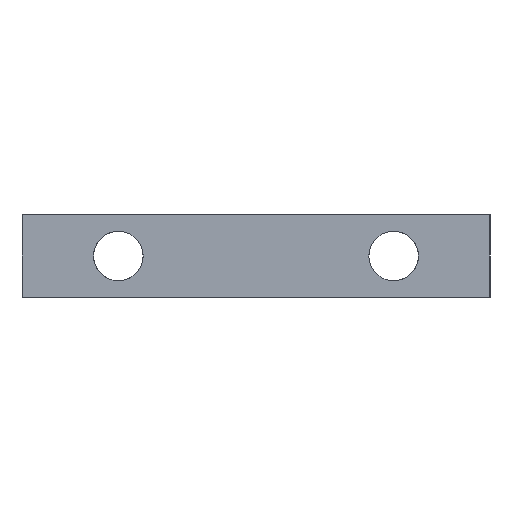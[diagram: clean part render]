
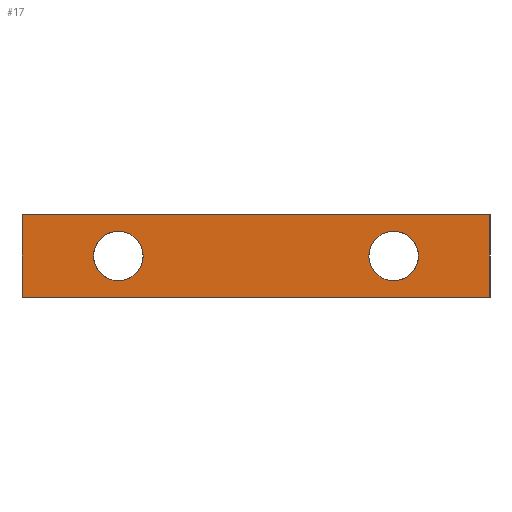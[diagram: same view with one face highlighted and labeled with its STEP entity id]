
A CAD part, left-side view. The second image highlights one B-rep face of the part: STEP entity #17.
In plain terms, the highlighted planar face has unit normal (-1, 0, 0).
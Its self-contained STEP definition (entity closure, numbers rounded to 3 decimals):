
#17 = ADVANCED_FACE('',(#18,#137,#168),#32,.F.);
#18 = FACE_BOUND('',#19,.F.);
#19 = EDGE_LOOP('',(#20,#55,#83,#111));
#20 = ORIENTED_EDGE('',*,*,#21,.F.);
#21 = EDGE_CURVE('',#22,#24,#26,.T.);
#22 = VERTEX_POINT('',#23);
#23 = CARTESIAN_POINT('',(-29.,38.,86.));
#24 = VERTEX_POINT('',#25);
#25 = CARTESIAN_POINT('',(-29.,38.,92.));
#26 = SURFACE_CURVE('',#27,(#31,#43),.PCURVE_S1.);
#27 = LINE('',#28,#29);
#28 = CARTESIAN_POINT('',(-29.,38.,86.));
#29 = VECTOR('',#30,1.);
#30 = DIRECTION('',(0.,0.,1.));
#31 = PCURVE('',#32,#37);
#32 = PLANE('',#33);
#33 = AXIS2_PLACEMENT_3D('',#34,#35,#36);
#34 = CARTESIAN_POINT('',(-29.,38.,86.));
#35 = DIRECTION('',(1.,0.,0.));
#36 = DIRECTION('',(0.,0.,1.));
#37 = DEFINITIONAL_REPRESENTATION('',(#38),#42);
#38 = LINE('',#39,#40);
#39 = CARTESIAN_POINT('',(0.,0.));
#40 = VECTOR('',#41,1.);
#41 = DIRECTION('',(1.,0.));
#42 = ( GEOMETRIC_REPRESENTATION_CONTEXT(2) 
PARAMETRIC_REPRESENTATION_CONTEXT() REPRESENTATION_CONTEXT('2D SPACE',''
  ) );
#43 = PCURVE('',#44,#49);
#44 = PLANE('',#45);
#45 = AXIS2_PLACEMENT_3D('',#46,#47,#48);
#46 = CARTESIAN_POINT('',(-29.,38.,86.));
#47 = DIRECTION('',(0.,1.,0.));
#48 = DIRECTION('',(0.,0.,1.));
#49 = DEFINITIONAL_REPRESENTATION('',(#50),#54);
#50 = LINE('',#51,#52);
#51 = CARTESIAN_POINT('',(0.,0.));
#52 = VECTOR('',#53,1.);
#53 = DIRECTION('',(1.,0.));
#54 = ( GEOMETRIC_REPRESENTATION_CONTEXT(2) 
PARAMETRIC_REPRESENTATION_CONTEXT() REPRESENTATION_CONTEXT('2D SPACE',''
  ) );
#55 = ORIENTED_EDGE('',*,*,#56,.T.);
#56 = EDGE_CURVE('',#22,#57,#59,.T.);
#57 = VERTEX_POINT('',#58);
#58 = CARTESIAN_POINT('',(-29.,72.,86.));
#59 = SURFACE_CURVE('',#60,(#64,#71),.PCURVE_S1.);
#60 = LINE('',#61,#62);
#61 = CARTESIAN_POINT('',(-29.,38.,86.));
#62 = VECTOR('',#63,1.);
#63 = DIRECTION('',(0.,1.,0.));
#64 = PCURVE('',#32,#65);
#65 = DEFINITIONAL_REPRESENTATION('',(#66),#70);
#66 = LINE('',#67,#68);
#67 = CARTESIAN_POINT('',(0.,0.));
#68 = VECTOR('',#69,1.);
#69 = DIRECTION('',(0.,-1.));
#70 = ( GEOMETRIC_REPRESENTATION_CONTEXT(2) 
PARAMETRIC_REPRESENTATION_CONTEXT() REPRESENTATION_CONTEXT('2D SPACE',''
  ) );
#71 = PCURVE('',#72,#77);
#72 = PLANE('',#73);
#73 = AXIS2_PLACEMENT_3D('',#74,#75,#76);
#74 = CARTESIAN_POINT('',(-29.,38.,86.));
#75 = DIRECTION('',(0.,0.,1.));
#76 = DIRECTION('',(1.,0.,0.));
#77 = DEFINITIONAL_REPRESENTATION('',(#78),#82);
#78 = LINE('',#79,#80);
#79 = CARTESIAN_POINT('',(0.,0.));
#80 = VECTOR('',#81,1.);
#81 = DIRECTION('',(0.,1.));
#82 = ( GEOMETRIC_REPRESENTATION_CONTEXT(2) 
PARAMETRIC_REPRESENTATION_CONTEXT() REPRESENTATION_CONTEXT('2D SPACE',''
  ) );
#83 = ORIENTED_EDGE('',*,*,#84,.T.);
#84 = EDGE_CURVE('',#57,#85,#87,.T.);
#85 = VERTEX_POINT('',#86);
#86 = CARTESIAN_POINT('',(-29.,72.,92.));
#87 = SURFACE_CURVE('',#88,(#92,#99),.PCURVE_S1.);
#88 = LINE('',#89,#90);
#89 = CARTESIAN_POINT('',(-29.,72.,86.));
#90 = VECTOR('',#91,1.);
#91 = DIRECTION('',(0.,0.,1.));
#92 = PCURVE('',#32,#93);
#93 = DEFINITIONAL_REPRESENTATION('',(#94),#98);
#94 = LINE('',#95,#96);
#95 = CARTESIAN_POINT('',(0.,-34.));
#96 = VECTOR('',#97,1.);
#97 = DIRECTION('',(1.,0.));
#98 = ( GEOMETRIC_REPRESENTATION_CONTEXT(2) 
PARAMETRIC_REPRESENTATION_CONTEXT() REPRESENTATION_CONTEXT('2D SPACE',''
  ) );
#99 = PCURVE('',#100,#105);
#100 = PLANE('',#101);
#101 = AXIS2_PLACEMENT_3D('',#102,#103,#104);
#102 = CARTESIAN_POINT('',(-29.,72.,86.));
#103 = DIRECTION('',(0.,1.,0.));
#104 = DIRECTION('',(0.,0.,1.));
#105 = DEFINITIONAL_REPRESENTATION('',(#106),#110);
#106 = LINE('',#107,#108);
#107 = CARTESIAN_POINT('',(0.,0.));
#108 = VECTOR('',#109,1.);
#109 = DIRECTION('',(1.,0.));
#110 = ( GEOMETRIC_REPRESENTATION_CONTEXT(2) 
PARAMETRIC_REPRESENTATION_CONTEXT() REPRESENTATION_CONTEXT('2D SPACE',''
  ) );
#111 = ORIENTED_EDGE('',*,*,#112,.F.);
#112 = EDGE_CURVE('',#24,#85,#113,.T.);
#113 = SURFACE_CURVE('',#114,(#118,#125),.PCURVE_S1.);
#114 = LINE('',#115,#116);
#115 = CARTESIAN_POINT('',(-29.,38.,92.));
#116 = VECTOR('',#117,1.);
#117 = DIRECTION('',(0.,1.,0.));
#118 = PCURVE('',#32,#119);
#119 = DEFINITIONAL_REPRESENTATION('',(#120),#124);
#120 = LINE('',#121,#122);
#121 = CARTESIAN_POINT('',(6.,0.));
#122 = VECTOR('',#123,1.);
#123 = DIRECTION('',(0.,-1.));
#124 = ( GEOMETRIC_REPRESENTATION_CONTEXT(2) 
PARAMETRIC_REPRESENTATION_CONTEXT() REPRESENTATION_CONTEXT('2D SPACE',''
  ) );
#125 = PCURVE('',#126,#131);
#126 = PLANE('',#127);
#127 = AXIS2_PLACEMENT_3D('',#128,#129,#130);
#128 = CARTESIAN_POINT('',(-29.,38.,92.));
#129 = DIRECTION('',(0.,0.,1.));
#130 = DIRECTION('',(1.,0.,0.));
#131 = DEFINITIONAL_REPRESENTATION('',(#132),#136);
#132 = LINE('',#133,#134);
#133 = CARTESIAN_POINT('',(0.,0.));
#134 = VECTOR('',#135,1.);
#135 = DIRECTION('',(0.,1.));
#136 = ( GEOMETRIC_REPRESENTATION_CONTEXT(2) 
PARAMETRIC_REPRESENTATION_CONTEXT() REPRESENTATION_CONTEXT('2D SPACE',''
  ) );
#137 = FACE_BOUND('',#138,.F.);
#138 = EDGE_LOOP('',(#139));
#139 = ORIENTED_EDGE('',*,*,#140,.F.);
#140 = EDGE_CURVE('',#141,#141,#143,.T.);
#141 = VERTEX_POINT('',#142);
#142 = CARTESIAN_POINT('',(-29.,65.,90.8));
#143 = SURFACE_CURVE('',#144,(#149,#156),.PCURVE_S1.);
#144 = CIRCLE('',#145,1.8);
#145 = AXIS2_PLACEMENT_3D('',#146,#147,#148);
#146 = CARTESIAN_POINT('',(-29.,65.,89.));
#147 = DIRECTION('',(1.,0.,0.));
#148 = DIRECTION('',(-0.,0.,1.));
#149 = PCURVE('',#32,#150);
#150 = DEFINITIONAL_REPRESENTATION('',(#151),#155);
#151 = CIRCLE('',#152,1.8);
#152 = AXIS2_PLACEMENT_2D('',#153,#154);
#153 = CARTESIAN_POINT('',(3.,-27.));
#154 = DIRECTION('',(1.,0.));
#155 = ( GEOMETRIC_REPRESENTATION_CONTEXT(2) 
PARAMETRIC_REPRESENTATION_CONTEXT() REPRESENTATION_CONTEXT('2D SPACE',''
  ) );
#156 = PCURVE('',#157,#162);
#157 = CYLINDRICAL_SURFACE('',#158,1.8);
#158 = AXIS2_PLACEMENT_3D('',#159,#160,#161);
#159 = CARTESIAN_POINT('',(-33.,65.,89.));
#160 = DIRECTION('',(1.,0.,0.));
#161 = DIRECTION('',(-0.,0.,1.));
#162 = DEFINITIONAL_REPRESENTATION('',(#163),#167);
#163 = LINE('',#164,#165);
#164 = CARTESIAN_POINT('',(0.,4.));
#165 = VECTOR('',#166,1.);
#166 = DIRECTION('',(1.,0.));
#167 = ( GEOMETRIC_REPRESENTATION_CONTEXT(2) 
PARAMETRIC_REPRESENTATION_CONTEXT() REPRESENTATION_CONTEXT('2D SPACE',''
  ) );
#168 = FACE_BOUND('',#169,.F.);
#169 = EDGE_LOOP('',(#170));
#170 = ORIENTED_EDGE('',*,*,#171,.F.);
#171 = EDGE_CURVE('',#172,#172,#174,.T.);
#172 = VERTEX_POINT('',#173);
#173 = CARTESIAN_POINT('',(-29.,45.,90.8));
#174 = SURFACE_CURVE('',#175,(#180,#187),.PCURVE_S1.);
#175 = CIRCLE('',#176,1.8);
#176 = AXIS2_PLACEMENT_3D('',#177,#178,#179);
#177 = CARTESIAN_POINT('',(-29.,45.,89.));
#178 = DIRECTION('',(1.,0.,0.));
#179 = DIRECTION('',(-0.,0.,1.));
#180 = PCURVE('',#32,#181);
#181 = DEFINITIONAL_REPRESENTATION('',(#182),#186);
#182 = CIRCLE('',#183,1.8);
#183 = AXIS2_PLACEMENT_2D('',#184,#185);
#184 = CARTESIAN_POINT('',(3.,-7.));
#185 = DIRECTION('',(1.,0.));
#186 = ( GEOMETRIC_REPRESENTATION_CONTEXT(2) 
PARAMETRIC_REPRESENTATION_CONTEXT() REPRESENTATION_CONTEXT('2D SPACE',''
  ) );
#187 = PCURVE('',#188,#193);
#188 = CYLINDRICAL_SURFACE('',#189,1.8);
#189 = AXIS2_PLACEMENT_3D('',#190,#191,#192);
#190 = CARTESIAN_POINT('',(-33.,45.,89.));
#191 = DIRECTION('',(1.,0.,0.));
#192 = DIRECTION('',(-0.,0.,1.));
#193 = DEFINITIONAL_REPRESENTATION('',(#194),#198);
#194 = LINE('',#195,#196);
#195 = CARTESIAN_POINT('',(0.,4.));
#196 = VECTOR('',#197,1.);
#197 = DIRECTION('',(1.,0.));
#198 = ( GEOMETRIC_REPRESENTATION_CONTEXT(2) 
PARAMETRIC_REPRESENTATION_CONTEXT() REPRESENTATION_CONTEXT('2D SPACE',''
  ) );
